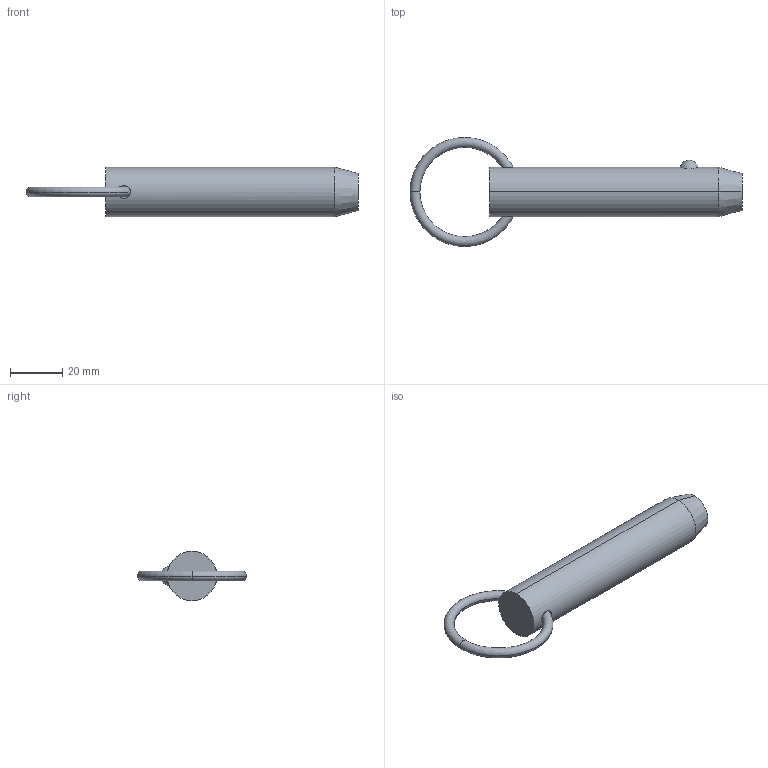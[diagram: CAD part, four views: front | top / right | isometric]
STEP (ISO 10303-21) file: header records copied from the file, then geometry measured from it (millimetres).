
FILE_DESCRIPTION (( 'STEP AP203' ), '1' );
FILE_NAME ('33010.W7525.step', '2024-11-01T10:43:43', ( '' ), ( '' ), 'SwSTEP 2.0', 'SolidWorks 2019', '' );
FILE_SCHEMA (( 'CONFIG_CONTROL_DESIGN' ));
Length unit declared in the file: millimetre
Products named in the file (3): Part1_33010.W7525; Part2_33010.W7525; 33010.W7525
Assembly tree (2 placements, depth 2):
  33010.W7525
    Part1_33010.W7525
    Part2_33010.W7525
Bounding box: 127.45 x 41.91 x 19.05 mm (x, y, z)
Volume: 28099.7 mm3; surface area: 7903.8 mm2
Topology: 2 solids, 2 shells, 16 faces, 31 edges, 18 vertices
Faces by surface type: torus 8, sphere 2, cone 2, cylinder 2, plane 2
Entity records: 893 total; most frequent: CARTESIAN_POINT 250, DIRECTION 88, ORIENTED_EDGE 62, AXIS2_PLACEMENT_3D 42, EDGE_CURVE 31, PERSON_AND_ORGANIZATION 26, CIRCLE 21, COORDINATED_UNIVERSAL_TIME_OFFSET 19
